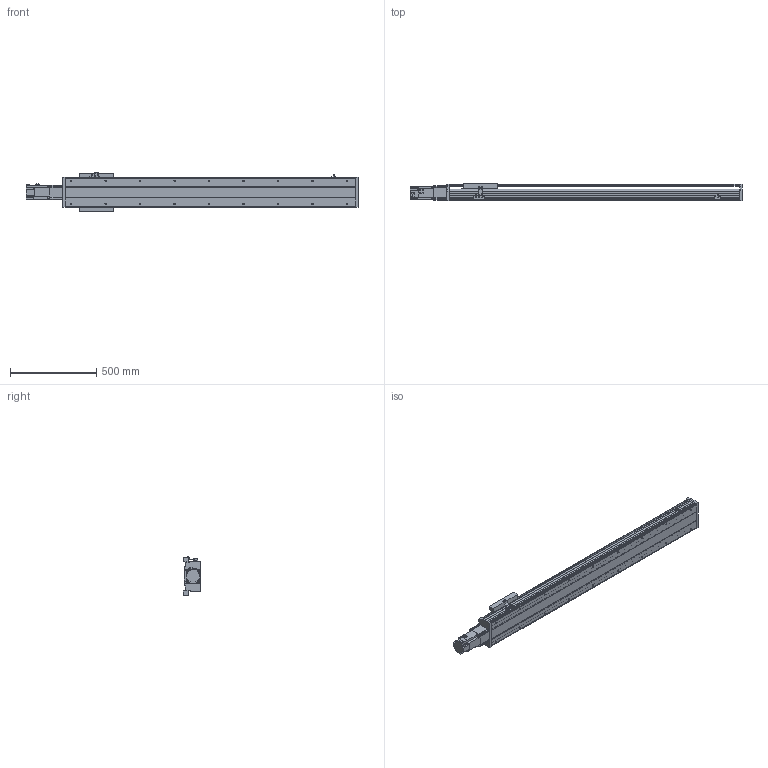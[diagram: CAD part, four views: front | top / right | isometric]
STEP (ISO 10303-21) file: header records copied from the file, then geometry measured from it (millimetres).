
FILE_DESCRIPTION(/* description */ ('STEP AP214'),/* implementation_level */ '2;1');
FILE_NAME(/* name */ 'PSS200-L10-S1350-BC-T75-C1-N(0)',/* time_stamp */ '2022-06-06T04:37:30+02:00',/* author */ ('License CC BY-ND 4.0'),/* organization */ ('CADENAS'),/* preprocessor_version */ 'ST-DEVELOPER v18.102',/* originating_system */ 'PARTsolutions',/* authorisation */ ' ');
FILE_SCHEMA (('AUTOMOTIVE_DESIGN {1 0 10303 214 3 1 1}'));
Length unit declared in the file: millimetre
Products named in the file (8): PSS200-L10-S1350-BC-T75-C1-N(0); PSS200-S1350-BC-N_S; T75-p1; PSS200BC-N_h; PSS200-N_sensor; PSS200-BC-C1-N_sl; PSS200-N_Q; PSS200-S1350-BC-C1-N_body
Assembly tree (9 placements, depth 2):
  PSS200-L10-S1350-BC-T75-C1-N(0)
    PSS200-S1350-BC-N_S
    T75-p1
    PSS200BC-N_h
    PSS200-N_sensor  x3
    PSS200-BC-C1-N_sl
    PSS200-N_Q
    PSS200-S1350-BC-C1-N_body
Bounding box: 1926.3 x 101.5 x 223.86 mm (x, y, z)
Volume: 10158667.4 mm3; surface area: 2682583.6 mm2
Topology: 9 solids, 9 shells, 589 faces, 1579 edges, 1048 vertices
Faces by surface type: plane 439, cylinder 124, cone 26
Full cylindrical faces by diameter (mm): 4 x2, 4.5 x4, 6 x11, 6.647 x22, 8 x8, 10 x6, 25 x1, 67 x1, 70 x1
Entity records: 16382 total; most frequent: CARTESIAN_POINT 2828, DIRECTION 2701, ORIENTED_EDGE 2666, EDGE_CURVE 1333, LINE 1051, VECTOR 1051, VERTEX_POINT 932, AXIS2_PLACEMENT_3D 825
